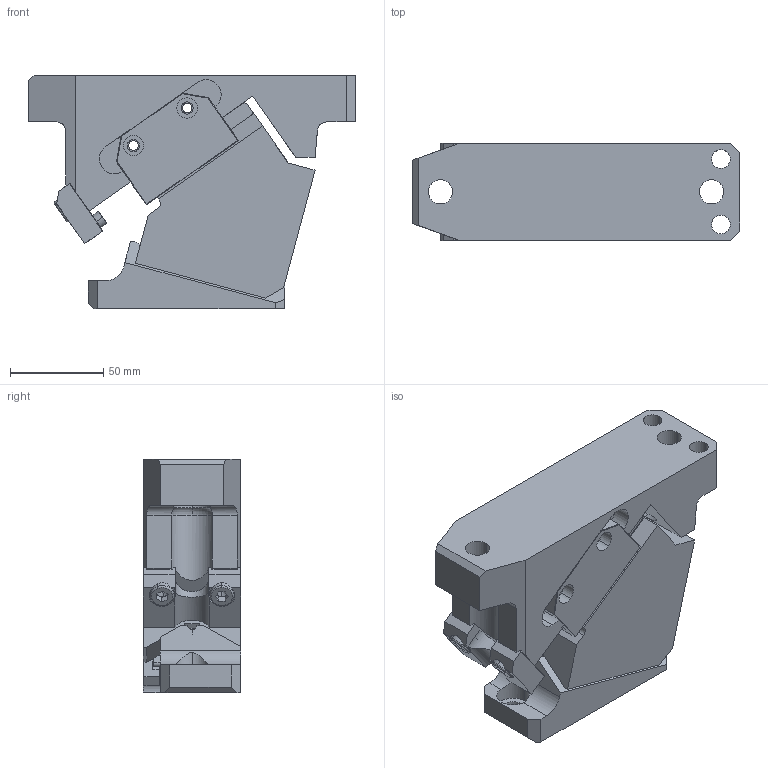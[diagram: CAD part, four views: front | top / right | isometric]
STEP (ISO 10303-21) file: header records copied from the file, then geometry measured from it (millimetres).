
FILE_DESCRIPTION (( 'STEP AP203' ), '1' );
FILE_NAME ('CLD052.15.step', '2014-05-05T08:34:21', ( '' ), ( '' ), 'SwSTEP 2.0', 'SolidWorks 2013', '' );
FILE_SCHEMA (( 'CONFIG_CONTROL_DESIGN' ));
Length unit declared in the file: millimetre
Products named in the file (4): CLD052.15; CLD05215-01 CAM BASE; CLD05215-02 CAM SLIDER; CLD05215-03 CAM DRIVER
Assembly tree (3 placements, depth 2):
  CLD052.15
    CLD05215-01 CAM BASE
    CLD05215-02 CAM SLIDER
    CLD05215-03 CAM DRIVER
Bounding box: 175 x 52 x 125 mm (x, y, z)
Volume: 670459.8 mm3; surface area: 114644.4 mm2
Topology: 3 solids, 7 shells, 382 faces, 985 edges, 622 vertices
Faces by surface type: plane 236, cylinder 121, cone 14, torus 11
Entity records: 12109 total; most frequent: CARTESIAN_POINT 2329, DIRECTION 1964, ORIENTED_EDGE 1950, EDGE_CURVE 975, AXIS2_PLACEMENT_3D 659, VECTOR 646, LINE 646, VERTEX_POINT 622
